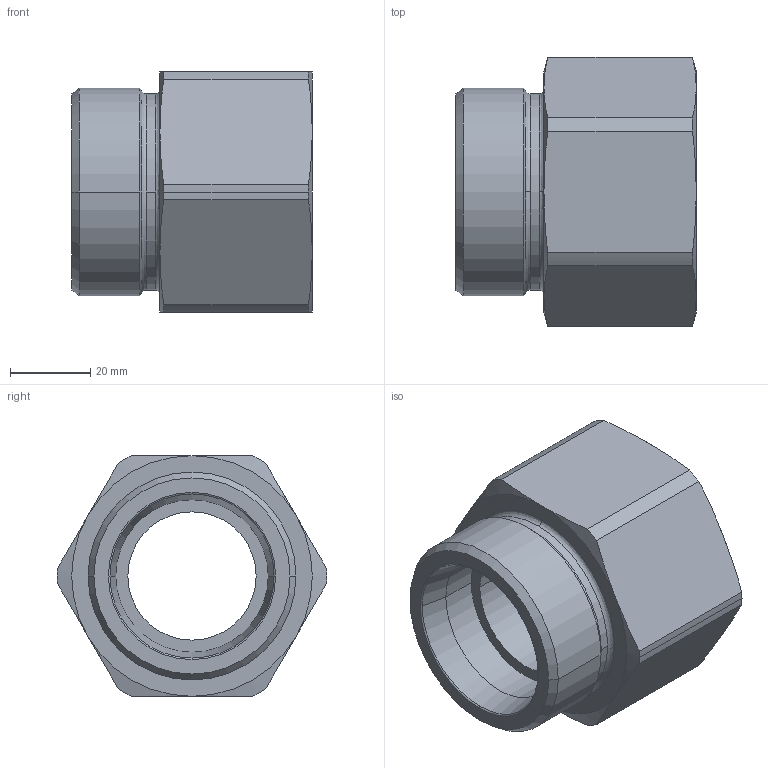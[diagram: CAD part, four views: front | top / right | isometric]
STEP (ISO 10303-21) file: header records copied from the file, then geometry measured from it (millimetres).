
FILE_DESCRIPTION((''),'2;1');
FILE_NAME('100823.stp','2007-10-30T15:17:59',(''),(''),'AutoCAD STEP 2000i','AutoCAD 2000i',', , ');
FILE_SCHEMA(('CONFIG_CONTROL_DESIGN'));
Length unit declared in the file: millimetre
Products named in the file (2): 100823.0; CHIAVE SMUSSATA#0
Assembly tree (1 placements, depth 2):
  100823.0
    CHIAVE SMUSSATA#0
Bounding box: 60 x 67.2 x 60 mm (x, y, z)
Volume: 83126.7 mm3; surface area: 22903.5 mm2
Topology: 1 solids, 1 shells, 56 faces, 134 edges, 82 vertices
Faces by surface type: cone 22, cylinder 18, plane 10, bspline 4, torus 2
Entity records: 1887 total; most frequent: CARTESIAN_POINT 498, DIRECTION 294, ORIENTED_EDGE 268, EDGE_CURVE 134, AXIS2_PLACEMENT_3D 130, VERTEX_POINT 82, CIRCLE 76, EDGE_LOOP 60
